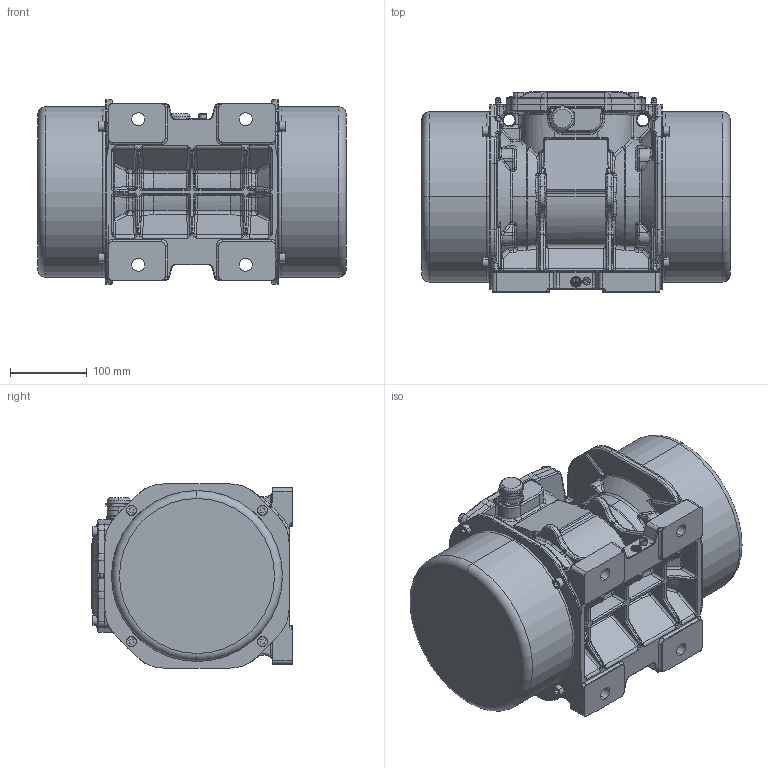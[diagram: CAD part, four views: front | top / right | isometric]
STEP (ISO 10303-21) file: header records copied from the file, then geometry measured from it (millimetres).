
FILE_DESCRIPTION (( 'STEP AP203' ), '1' );
FILE_NAME ('MVE1600-3-36_MVE2000-3-36_MVE2300-3-36-60A0.STEP', '2018-06-06T09:13:28', ( 'dma' ), ( '' ), 'SwSTEP 2.0', 'SolidWorks 2016', '' );
FILE_SCHEMA (( 'CONFIG_CONTROL_DESIGN' ));
Length unit declared in the file: millimetre
Products named in the file (1): MVE1600-3-36_MVE2000-3-36_MVE2300-3-36-60A0
Bounding box: 402 x 261.02 x 240 mm (x, y, z)
Volume: 13947438.4 mm3; surface area: 578576.4 mm2
Topology: 1 solids, 1 shells, 2338 faces, 5531 edges, 3159 vertices
Faces by surface type: bspline 911, cylinder 659, plane 420, torus 152, sphere 117, cone 79
Entity records: 93693 total; most frequent: CARTESIAN_POINT 47818, ORIENTED_EDGE 10878, DIRECTION 8205, EDGE_CURVE 5439, AXIS2_PLACEMENT_3D 3337, VERTEX_POINT 3143, EDGE_LOOP 2390, ADVANCED_FACE 2338
